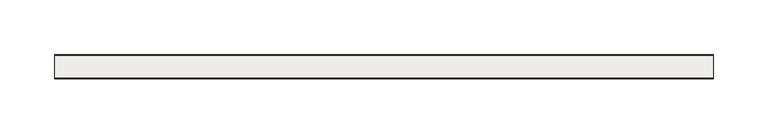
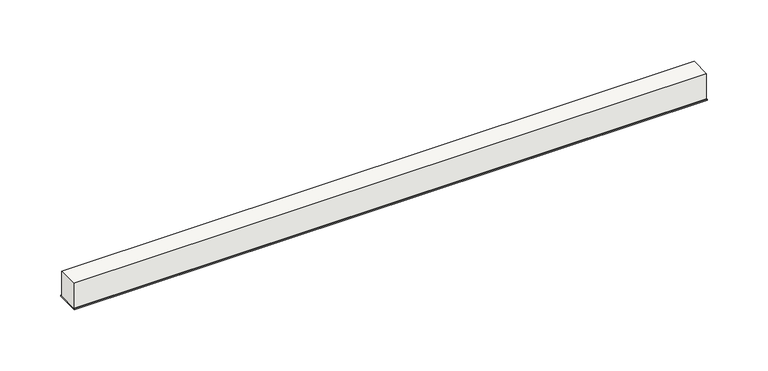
"""IFC4 building model written with IfcOpenShell, lengths in millimetres: covering geometry, SikaSwell® A System : SikaSwell® A System (2025)."""

from ifc_helpers import new_model, si_unit, frame, origin, origin_with_axes, place, context, project, spatial, polyline, outline, extrude, source, transform, mapped, element, save


def covering_9e7b3a2a(model_context):
    return source(origin(), model_context, "Body", "SweptSolid", [
        extrude(outline(polyline([(600.0, 0.0), (600.0, -20.0), (0.0, -20.0), (0.0, 0.0), (600.0, 0.0)])), frame((0.0, 0.0, 1.0), z_axis=(0.0, 0.0, 1.0), x_axis=(1.0, 0.0, 0.0)), (0.0, 0.0, 1.0), 25.0),
        extrude(outline(polyline([(600.0, 1.0), (600.0, -21.0), (0.0, -21.0), (0.0, 1.0), (600.0, 1.0)])), origin_with_axes(), (0.0, 0.0, 1.0), 1.0),
    ])


if __name__ == "__main__":
    model = new_model("IFC4")
    model_context = context("Model", 3, world=origin())
    ifc_project = project(units=[si_unit("LENGTHUNIT", "METRE", prefix="MILLI")], contexts=[model_context])
    site = spatial("IfcSite", under=ifc_project)
    building = spatial("IfcBuilding", under=site)
    placement = place(None, origin())
    covering_shape = covering_9e7b3a2a(model_context)
    element("IfcCovering", 1, ObjectType="SikaSwell® A System : SikaSwell® A System (2025)", at=placement, inside=building, context=model_context, shape_type="MappedRepresentation", body=[
        mapped(covering_shape, transform((0.0, 0.0, 0.0), x_axis=(1.0, 0.0, 0.0), y_axis=(0.0, 1.0, 0.0), z_axis=(0.0, 0.0, 1.0))),
    ])
    save(model, "model.ifc")
